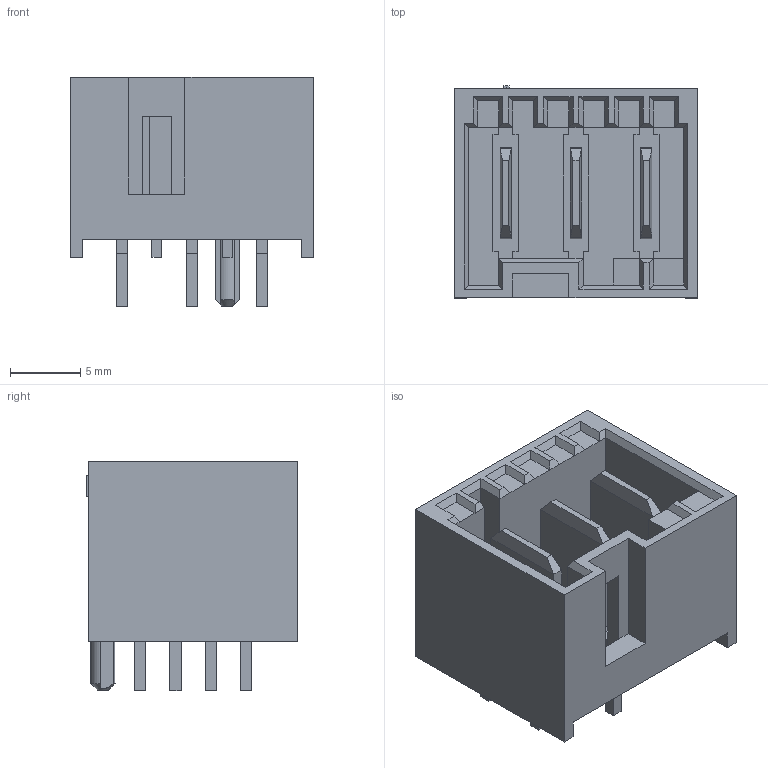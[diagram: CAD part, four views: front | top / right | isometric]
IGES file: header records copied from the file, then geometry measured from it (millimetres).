
Start section:  PTC IGES file: c-2232043-3-a-3d.igs
Global section: file name: c-2232043-3-a-3d.igs; native system: Creo Parametric by Parametric Technology Corporation; preprocessor: 2013050; author: workeradm; organization: Unknown; units: millimetre
Bounding box: 17.3 x 15.05 x 16.3 mm (x, y, z)
Surface area: 2615.4 mm2 (no closed solid volume)
Topology: 0 solids, 0 shells, 207 faces, 1104 edges, 1104 vertices
Faces by surface type: bspline 203, revolution 4
